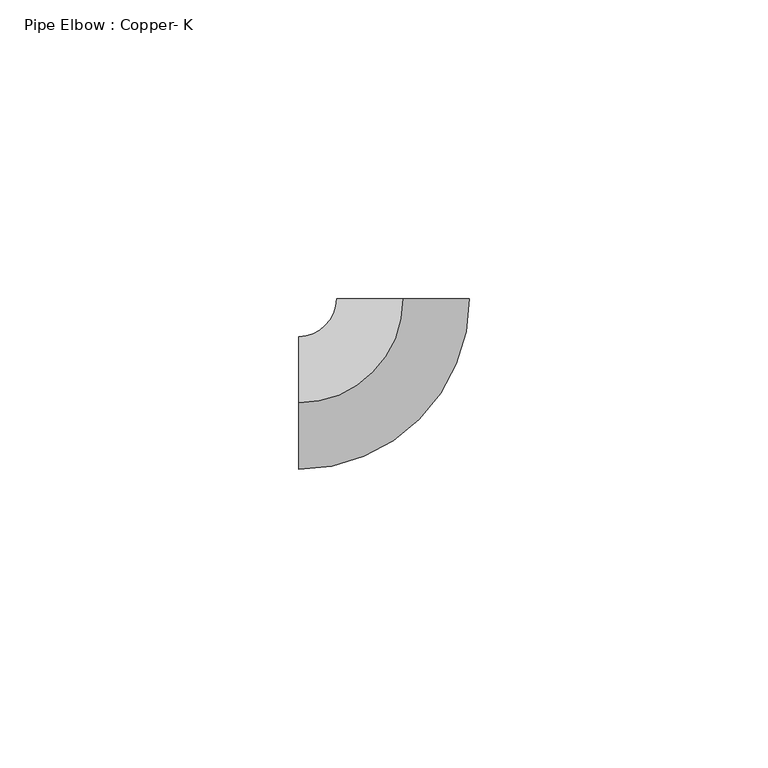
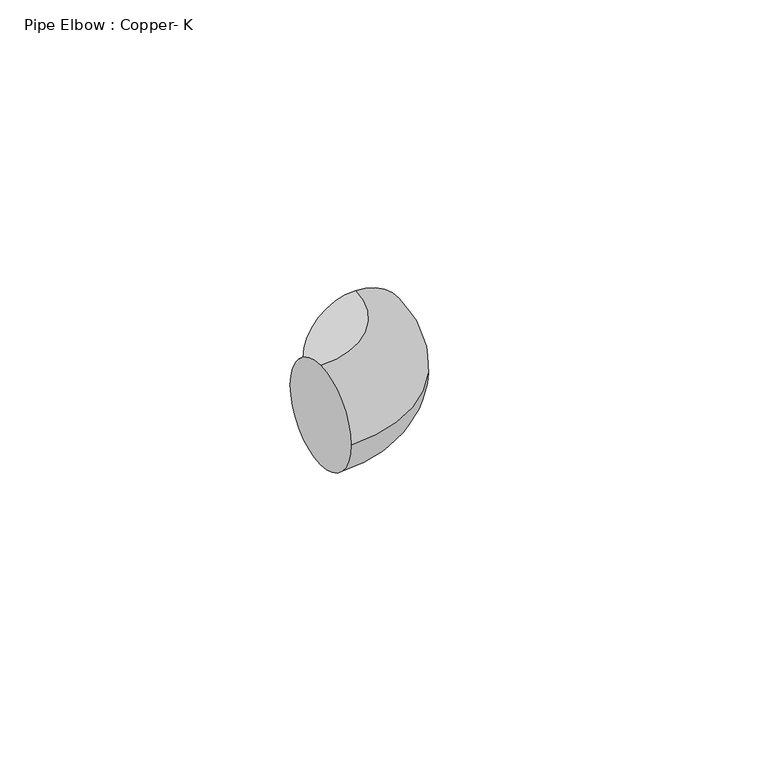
"""IFC4 building model written with IfcOpenShell, lengths in millimetres: pipe fitting geometry, Pipe Elbow : Copper- K."""

from ifc_helpers import new_model, si_unit, point, frame, origin, place, context, project, spatial, circle_curve, ellipse_curve, trimmed, source, transform, mapped, element, save
from ifc_brep_helpers import plane_surface, revolved_surface, advanced_brep


def pipe_elbow_copper_k_aad62f2d(model_context):
    return source(origin(), model_context, "Body", "AdvancedBrep", [
        advanced_brep(
        [(-17.4625, 0.0, 11.1125), (-17.4625, 11.1125, 0.0), (-17.4625, 0.0, -11.1125), (-17.4625, -11.1125, 0.0), (0.0, 17.4625, 11.1125), (11.1125, 17.4625, 0.0), (0.0, 17.4625, -11.1125), (-11.1125, 17.4625, 0.0)],
        [
            (0, 1, circle_curve(frame((-17.4625, 0.0, 0.0), z_axis=(-1.0, 0.0, 0.0), x_axis=(0.0, 1.0, 0.0)), 11.1125)),
            (1, 2, circle_curve(frame((-17.4625, 0.0, 0.0), z_axis=(-1.0, 0.0, 0.0), x_axis=(0.0, 1.0, 0.0)), 11.1125)),
            (2, 3, circle_curve(frame((-17.4625, 0.0, 0.0), z_axis=(-1.0, 0.0, 0.0), x_axis=(0.0, 1.0, 0.0)), 11.1125)),
            (3, 0, circle_curve(frame((-17.4625, 0.0, 0.0), z_axis=(-1.0, 0.0, 0.0), x_axis=(0.0, 1.0, 0.0)), 11.1125)),
            (4, 5, circle_curve(frame((0.0, 17.4625, 0.0), z_axis=(0.0, 1.0, 0.0), x_axis=(-1.0, 0.0, 0.0)), 11.1125)),
            (5, 6, circle_curve(frame((0.0, 17.4625, 0.0), z_axis=(0.0, 1.0, 0.0), x_axis=(-1.0, 0.0, 0.0)), 11.1125)),
            (6, 7, circle_curve(frame((0.0, 17.4625, 0.0), z_axis=(0.0, 1.0, 0.0), x_axis=(-1.0, 0.0, 0.0)), 11.1125)),
            (7, 4, circle_curve(frame((0.0, 17.4625, 0.0), z_axis=(0.0, 1.0, 0.0), x_axis=(-1.0, 0.0, 0.0)), 11.1125)),
            (7, 1, circle_curve(frame((-17.4625, 17.4625, 0.0), z_axis=(0.0, 0.0, -1.0), x_axis=(0.0, -1.0, 0.0)), 6.35)),
            (0, 4, circle_curve(frame((-17.4625, 17.4625, 11.1125), z_axis=(0.0, 0.0, 1.0), x_axis=(0.0, -1.0, 0.0)), 17.4625)),
            (6, 2, circle_curve(frame((-17.4625, 17.4625, -11.1125), z_axis=(0.0, 0.0, -1.0), x_axis=(0.0, -1.0, 0.0)), 17.4625)),
            (5, 3, circle_curve(frame((-17.4625, 17.4625, 0.0), z_axis=(0.0, 0.0, -1.0), x_axis=(0.0, -1.0, 0.0)), 28.575)),
        ],
        [
            plane_surface(frame((-17.4625, 0.0, 0.0), z_axis=(-1.0, 0.0, 0.0), x_axis=(0.0, 0.0, 1.0))),
            plane_surface(frame((0.0, 17.4625, 0.0), z_axis=(0.0, 1.0, 0.0), x_axis=(0.0, 0.0, 1.0))),
            revolved_surface(trimmed(ellipse_curve(frame((-17.4625, 0.0, 0.0), z_axis=(-1.0, 0.0, 0.0), x_axis=(0.0, 1.0, 0.0)), 11.1125, 11.1125), [point((-17.4625, 0.0, 11.1125))], [point((-17.4625, 11.1125, 0.0))], True, "CARTESIAN"), (-17.4625, 17.4625, 0.0), (0.0, 0.0, 1.0)),
            revolved_surface(trimmed(ellipse_curve(frame((-17.4625, 0.0, 0.0), z_axis=(-1.0, 0.0, 0.0), x_axis=(0.0, 1.0, 0.0)), 11.1125, 11.1125), [point((-17.4625, 11.1125, 0.0))], [point((-17.4625, 0.0, -11.1125))], True, "CARTESIAN"), (-17.4625, 17.4625, 0.0), (0.0, 0.0, 1.0)),
            revolved_surface(trimmed(ellipse_curve(frame((-17.4625, 0.0, 0.0), z_axis=(-1.0, 0.0, 0.0), x_axis=(0.0, 1.0, 0.0)), 11.1125, 11.1125), [point((-17.4625, 0.0, -11.1125))], [point((-17.4625, -11.1125, 0.0))], True, "CARTESIAN"), (-17.4625, 17.4625, 0.0), (0.0, 0.0, 1.0)),
            revolved_surface(trimmed(ellipse_curve(frame((-17.4625, 0.0, 0.0), z_axis=(-1.0, 0.0, 0.0), x_axis=(0.0, 1.0, 0.0)), 11.1125, 11.1125), [point((-17.4625, -11.1125, 0.0))], [point((-17.4625, 0.0, 11.1125))], True, "CARTESIAN"), (-17.4625, 17.4625, 0.0), (0.0, 0.0, 1.0)),
        ],
        [
            (0, [[1, 2, 3, 4]]),
            (1, [[5, 6, 7, 8]]),
            (2, [[9, -1, 10, -8]]),
            (3, [[11, -2, -9, -7]]),
            (4, [[12, -3, -11, -6]]),
            (5, [[-10, -4, -12, -5]]),
        ],
    ),
        advanced_brep(
        [(-17.4625, 0.0, 11.1125), (-17.4625, 11.1125, 0.0), (-17.4625, 0.0, -11.1125), (-17.4625, -11.1125, 0.0), (0.0, 17.4625, 11.1125), (11.1125, 17.4625, 0.0), (0.0, 17.4625, -11.1125), (-11.1125, 17.4625, 0.0)],
        [
            (0, 1, circle_curve(frame((-17.4625, 0.0, 0.0), z_axis=(-1.0, 0.0, 0.0), x_axis=(0.0, 1.0, 0.0)), 11.1125)),
            (1, 2, circle_curve(frame((-17.4625, 0.0, 0.0), z_axis=(-1.0, 0.0, 0.0), x_axis=(0.0, 1.0, 0.0)), 11.1125)),
            (2, 3, circle_curve(frame((-17.4625, 0.0, 0.0), z_axis=(-1.0, 0.0, 0.0), x_axis=(0.0, 1.0, 0.0)), 11.1125)),
            (3, 0, circle_curve(frame((-17.4625, 0.0, 0.0), z_axis=(-1.0, 0.0, 0.0), x_axis=(0.0, 1.0, 0.0)), 11.1125)),
            (4, 5, circle_curve(frame((0.0, 17.4625, 0.0), z_axis=(0.0, 1.0, 0.0), x_axis=(-1.0, 0.0, 0.0)), 11.1125)),
            (5, 6, circle_curve(frame((0.0, 17.4625, 0.0), z_axis=(0.0, 1.0, 0.0), x_axis=(-1.0, 0.0, 0.0)), 11.1125)),
            (6, 7, circle_curve(frame((0.0, 17.4625, 0.0), z_axis=(0.0, 1.0, 0.0), x_axis=(-1.0, 0.0, 0.0)), 11.1125)),
            (7, 4, circle_curve(frame((0.0, 17.4625, 0.0), z_axis=(0.0, 1.0, 0.0), x_axis=(-1.0, 0.0, 0.0)), 11.1125)),
            (7, 1, circle_curve(frame((-17.4625, 17.4625, 0.0), z_axis=(0.0, 0.0, -1.0), x_axis=(0.0, -1.0, 0.0)), 6.35)),
            (0, 4, circle_curve(frame((-17.4625, 17.4625, 11.1125), z_axis=(0.0, 0.0, 1.0), x_axis=(0.0, -1.0, 0.0)), 17.4625)),
            (6, 2, circle_curve(frame((-17.4625, 17.4625, -11.1125), z_axis=(0.0, 0.0, -1.0), x_axis=(0.0, -1.0, 0.0)), 17.4625)),
            (5, 3, circle_curve(frame((-17.4625, 17.4625, 0.0), z_axis=(0.0, 0.0, -1.0), x_axis=(0.0, -1.0, 0.0)), 28.575)),
        ],
        [
            plane_surface(frame((-17.4625, 0.0, 0.0), z_axis=(-1.0, 0.0, 0.0), x_axis=(0.0, 0.0, 1.0))),
            plane_surface(frame((0.0, 17.4625, 0.0), z_axis=(0.0, 1.0, 0.0), x_axis=(0.0, 0.0, 1.0))),
            revolved_surface(trimmed(ellipse_curve(frame((-17.4625, 0.0, 0.0), z_axis=(-1.0, 0.0, 0.0), x_axis=(0.0, 1.0, 0.0)), 11.1125, 11.1125), [point((-17.4625, 0.0, 11.1125))], [point((-17.4625, 11.1125, 0.0))], True, "CARTESIAN"), (-17.4625, 17.4625, 0.0), (0.0, 0.0, 1.0)),
            revolved_surface(trimmed(ellipse_curve(frame((-17.4625, 0.0, 0.0), z_axis=(-1.0, 0.0, 0.0), x_axis=(0.0, 1.0, 0.0)), 11.1125, 11.1125), [point((-17.4625, 11.1125, 0.0))], [point((-17.4625, 0.0, -11.1125))], True, "CARTESIAN"), (-17.4625, 17.4625, 0.0), (0.0, 0.0, 1.0)),
            revolved_surface(trimmed(ellipse_curve(frame((-17.4625, 0.0, 0.0), z_axis=(-1.0, 0.0, 0.0), x_axis=(0.0, 1.0, 0.0)), 11.1125, 11.1125), [point((-17.4625, 0.0, -11.1125))], [point((-17.4625, -11.1125, 0.0))], True, "CARTESIAN"), (-17.4625, 17.4625, 0.0), (0.0, 0.0, 1.0)),
            revolved_surface(trimmed(ellipse_curve(frame((-17.4625, 0.0, 0.0), z_axis=(-1.0, 0.0, 0.0), x_axis=(0.0, 1.0, 0.0)), 11.1125, 11.1125), [point((-17.4625, -11.1125, 0.0))], [point((-17.4625, 0.0, 11.1125))], True, "CARTESIAN"), (-17.4625, 17.4625, 0.0), (0.0, 0.0, 1.0)),
        ],
        [
            (0, [[1, 2, 3, 4]]),
            (1, [[5, 6, 7, 8]]),
            (2, [[9, -1, 10, -8]]),
            (3, [[11, -2, -9, -7]]),
            (4, [[12, -3, -11, -6]]),
            (5, [[-10, -4, -12, -5]]),
        ],
    ),
    ])


if __name__ == "__main__":
    model = new_model("IFC4")
    model_context = context("Model", 3, world=origin())
    ifc_project = project(units=[si_unit("LENGTHUNIT", "METRE", prefix="MILLI")], contexts=[model_context])
    site = spatial("IfcSite", under=ifc_project)
    building = spatial("IfcBuilding", under=site)
    placement = place(None, origin())
    pipe_elbow_copper_k_shape = pipe_elbow_copper_k_aad62f2d(model_context)
    element("IfcPipeFitting", 1, ObjectType="Pipe Elbow : Copper- K", at=placement, inside=building, context=model_context, shape_type="MappedRepresentation", body=[
        mapped(pipe_elbow_copper_k_shape, transform((0.0, 0.0, 0.0), x_axis=(1.0, 0.0, 0.0), y_axis=(0.0, 1.0, 0.0), z_axis=(0.0, 0.0, 1.0))),
    ])
    save(model, "model.ifc")
